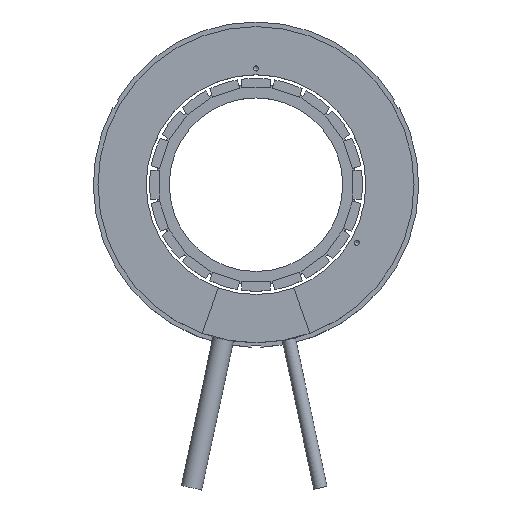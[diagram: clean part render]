
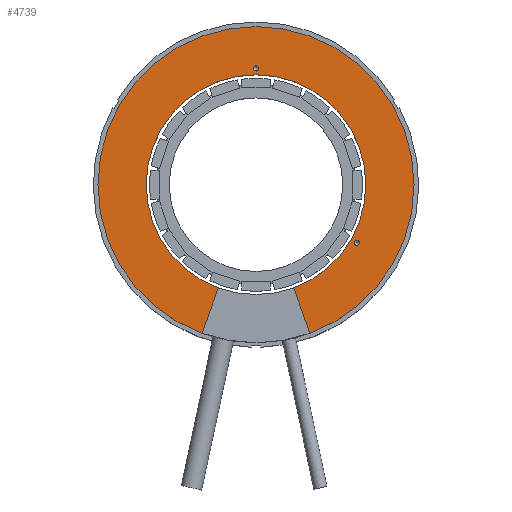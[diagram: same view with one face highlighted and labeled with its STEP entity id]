
A CAD part, top view. The second image highlights one B-rep face of the part: STEP entity #4739.
In plain terms, the highlighted planar face has unit normal (0, 0, 1).
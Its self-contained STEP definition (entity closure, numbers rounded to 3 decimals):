
#105=LINE('',#6867,#703);
#106=LINE('',#6868,#704);
#703=VECTOR('',#5481,1000.);
#704=VECTOR('',#5482,1000.);
#1325=ORIENTED_EDGE('',*,*,#2721,.T.);
#1326=ORIENTED_EDGE('',*,*,#2722,.T.);
#1327=ORIENTED_EDGE('',*,*,#2723,.F.);
#1328=ORIENTED_EDGE('',*,*,#2709,.T.);
#1329=ORIENTED_EDGE('',*,*,#2724,.F.);
#1330=ORIENTED_EDGE('',*,*,#2717,.F.);
#2709=EDGE_CURVE('',#3405,#3406,#3835,.T.);
#2717=EDGE_CURVE('',#3413,#3414,#3839,.T.);
#2721=EDGE_CURVE('',#3417,#3417,#3841,.T.);
#2722=EDGE_CURVE('',#3418,#3418,#3842,.T.);
#2723=EDGE_CURVE('',#3405,#3413,#105,.T.);
#2724=EDGE_CURVE('',#3414,#3406,#106,.T.);
#3405=VERTEX_POINT('',#6817);
#3406=VERTEX_POINT('',#6818);
#3413=VERTEX_POINT('',#6855);
#3414=VERTEX_POINT('',#6856);
#3417=VERTEX_POINT('',#6864);
#3418=VERTEX_POINT('',#6866);
#3835=CIRCLE('',#5040,51.);
#3839=CIRCLE('',#5046,35.45);
#3841=CIRCLE('',#5049,0.825);
#3842=CIRCLE('',#5050,0.825);
#3944=EDGE_LOOP('',(#1325));
#3945=EDGE_LOOP('',(#1326));
#3946=EDGE_LOOP('',(#1327,#1328,#1329,#1330));
#4234=FACE_BOUND('',#3944,.T.);
#4235=FACE_BOUND('',#3945,.T.);
#4236=FACE_BOUND('',#3946,.T.);
#4514=PLANE('',#5048);
#4739=ADVANCED_FACE('',(#4234,#4235,#4236),#4514,.T.);
#5040=AXIS2_PLACEMENT_3D('',#6816,#5455,#5456);
#5046=AXIS2_PLACEMENT_3D('',#6854,#5469,#5470);
#5048=AXIS2_PLACEMENT_3D('',#6862,#5475,#5476);
#5049=AXIS2_PLACEMENT_3D('',#6863,#5477,#5478);
#5050=AXIS2_PLACEMENT_3D('',#6865,#5479,#5480);
#5455=DIRECTION('',(0.,0.,1.));
#5456=DIRECTION('',(1.,0.,0.));
#5469=DIRECTION('',(0.,0.,1.));
#5470=DIRECTION('',(1.,0.,0.));
#5475=DIRECTION('',(0.,0.,1.));
#5476=DIRECTION('',(1.,0.,0.));
#5477=DIRECTION('',(0.,0.,-1.));
#5478=DIRECTION('',(0.,-1.,0.));
#5479=DIRECTION('',(0.,0.,-1.));
#5480=DIRECTION('',(0.,-1.,0.));
#5481=DIRECTION('',(-0.342,0.94,0.));
#5482=DIRECTION('',(-0.342,-0.94,0.));
#6816=CARTESIAN_POINT('',(0.,0.,17.));
#6817=CARTESIAN_POINT('',(17.443,-47.924,17.));
#6818=CARTESIAN_POINT('',(-17.443,-47.924,17.));
#6854=CARTESIAN_POINT('',(0.,0.,17.));
#6855=CARTESIAN_POINT('',(12.125,-33.312,17.));
#6856=CARTESIAN_POINT('',(-12.125,-33.312,17.));
#6862=CARTESIAN_POINT('',(35.45,0.,17.));
#6863=CARTESIAN_POINT('',(0.,37.5,17.));
#6864=CARTESIAN_POINT('',(0.,36.675,17.));
#6865=CARTESIAN_POINT('',(32.476,-18.75,17.));
#6866=CARTESIAN_POINT('',(32.476,-19.575,17.));
#6867=CARTESIAN_POINT('',(12.125,-33.312,17.));
#6868=CARTESIAN_POINT('',(-12.125,-33.312,17.));
